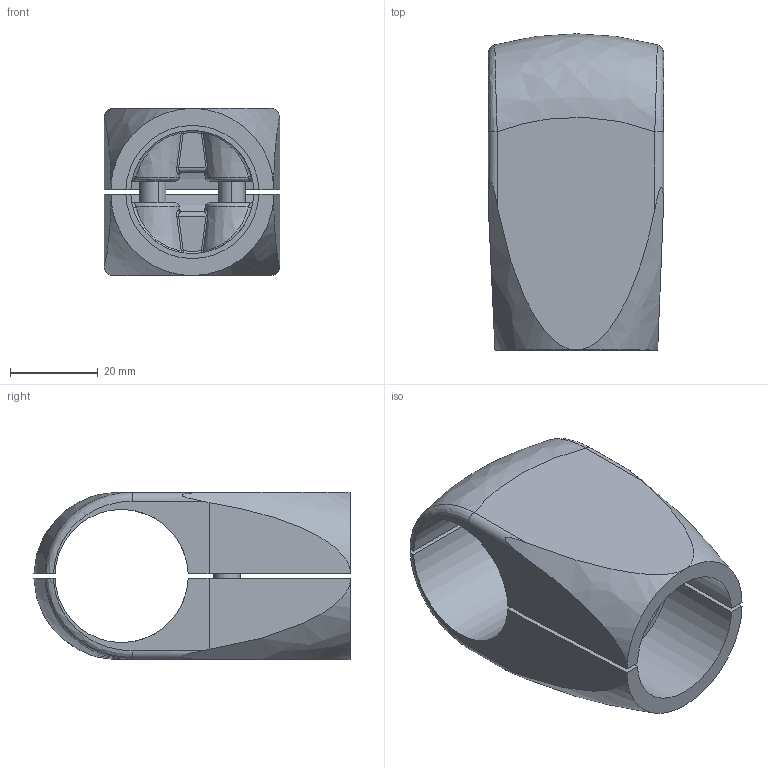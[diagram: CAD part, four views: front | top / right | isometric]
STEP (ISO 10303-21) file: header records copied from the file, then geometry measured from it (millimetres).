
FILE_DESCRIPTION (( 'STEP AP214' ), '1' );
FILE_NAME ('31000410000.STEP', '2024-09-02T09:46:56', ( '' ), ( '' ), 'SwSTEP 2.0', 'SolidWorks 2016', '' );
FILE_SCHEMA (( 'AUTOMOTIVE_DESIGN' ));
Length unit declared in the file: millimetre
Products named in the file (4): 1690_Schale 1; 31000410000; 1690_Schale 2; DIN 6912  (Regelgewinde) M6 x 25_9
Assembly tree (4 placements, depth 2):
  31000410000
    1690_Schale 1
    1690_Schale 2
    DIN 6912  (Regelgewinde) M6 x 25_9  x2
Bounding box: 39.85 x 71.95 x 38 mm (x, y, z)
Volume: 45327.7 mm3; surface area: 20734.5 mm2
Topology: 4 solids, 4 shells, 180 faces, 459 edges, 281 vertices
Faces by surface type: plane 50, bspline 48, cylinder 42, cone 22, torus 10, sphere 8
Entity records: 10760 total; most frequent: CARTESIAN_POINT 5559, ORIENTED_EDGE 786, DIRECTION 526, EDGE_CURVE 393, VERTEX_POINT 248, AXIS2_PLACEMENT_3D 209, B_SPLINE_CURVE_WITH_KNOTS 185, EDGE_LOOP 171
